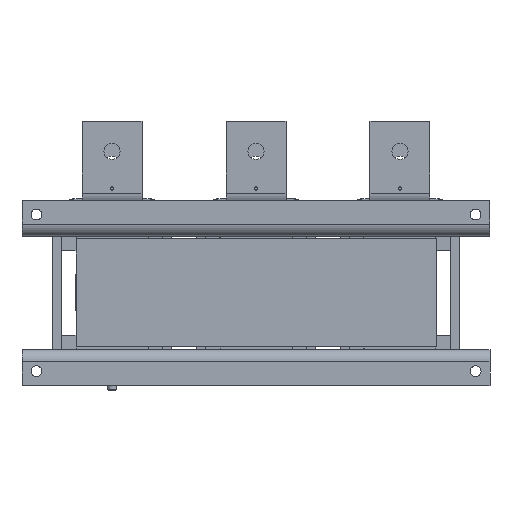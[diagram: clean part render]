
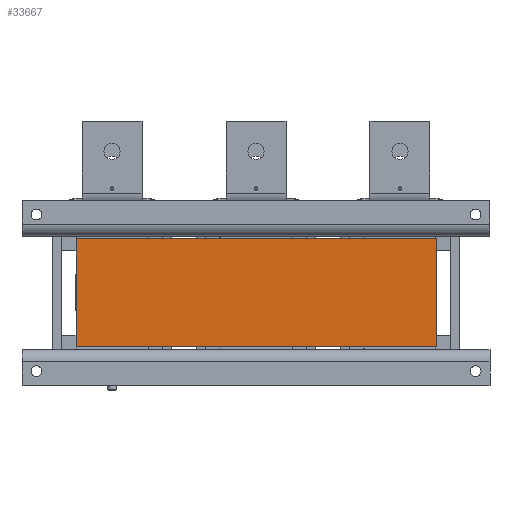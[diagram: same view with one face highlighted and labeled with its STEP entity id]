
A CAD part, front view. The second image highlights one B-rep face of the part: STEP entity #33667.
In plain terms, the highlighted planar face has unit normal (0, -1, 0).
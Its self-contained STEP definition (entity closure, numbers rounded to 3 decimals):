
#2771=FACE_OUTER_BOUND('',#4770,.T.);
#4770=EDGE_LOOP('',(#22353,#22354,#22355,#22356));
#6806=LINE('',#48743,#10094);
#7066=LINE('',#49672,#10354);
#7067=LINE('',#49673,#10355);
#7068=LINE('',#49674,#10356);
#10094=VECTOR('',#38948,10.);
#10354=VECTOR('',#39704,10.);
#10355=VECTOR('',#39705,10.);
#10356=VECTOR('',#39706,10.);
#13561=VERTEX_POINT('',#48740);
#13562=VERTEX_POINT('',#48742);
#13874=VERTEX_POINT('',#49670);
#13875=VERTEX_POINT('',#49671);
#16797=EDGE_CURVE('',#13562,#13561,#6806,.T.);
#17208=EDGE_CURVE('',#13874,#13875,#7066,.T.);
#17209=EDGE_CURVE('',#13562,#13874,#7067,.T.);
#17210=EDGE_CURVE('',#13875,#13561,#7068,.T.);
#22353=ORIENTED_EDGE('',*,*,#17208,.F.);
#22354=ORIENTED_EDGE('',*,*,#17209,.F.);
#22355=ORIENTED_EDGE('',*,*,#16797,.T.);
#22356=ORIENTED_EDGE('',*,*,#17210,.F.);
#30558=PLANE('',#35854);
#33667=ADVANCED_FACE('',(#2771),#30558,.T.);
#35854=AXIS2_PLACEMENT_3D('',#49669,#39702,#39703);
#38948=DIRECTION('',(0.,0.,1.));
#39702=DIRECTION('center_axis',(0.,-1.,0.));
#39703=DIRECTION('ref_axis',(1.,0.,0.));
#39704=DIRECTION('',(0.,0.,1.));
#39705=DIRECTION('',(-1.,0.,0.));
#39706=DIRECTION('',(1.,0.,0.));
#48740=CARTESIAN_POINT('',(150.,-236.07,45.));
#48742=CARTESIAN_POINT('',(150.,-236.07,-45.));
#48743=CARTESIAN_POINT('',(150.,-236.07,0.));
#49669=CARTESIAN_POINT('Origin',(-150.,-236.07,0.));
#49670=CARTESIAN_POINT('',(-150.,-236.07,-45.));
#49671=CARTESIAN_POINT('',(-150.,-236.07,45.));
#49672=CARTESIAN_POINT('',(-150.,-236.07,0.));
#49673=CARTESIAN_POINT('',(-150.,-236.07,-45.));
#49674=CARTESIAN_POINT('',(-150.,-236.07,45.));
